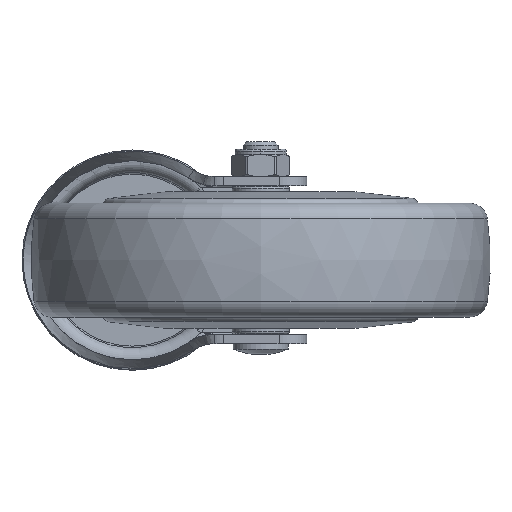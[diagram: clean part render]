
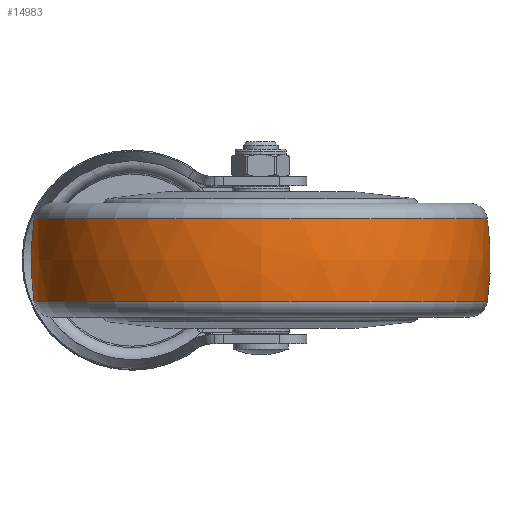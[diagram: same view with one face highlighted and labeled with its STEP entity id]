
A CAD part, front view. The second image highlights one B-rep face of the part: STEP entity #14983.
In plain terms, the highlighted free-form (B-spline) face has degree [3, 3] with [7, 4] control points.
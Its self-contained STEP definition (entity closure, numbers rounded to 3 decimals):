
#14434=CARTESIAN_POINT('',(11.2,0.,0.));
#14435=DIRECTION('',(-1.,0.,0.));
#14436=DIRECTION('',(0.,1.,0.));
#14437=AXIS2_PLACEMENT_3D('',#14434,#14435,#14436);
#14439=CARTESIAN_POINT('',(0.,-17.482,0.));
#14440=DIRECTION('',(0.,0.,1.));
#14441=DIRECTION('',(0.14,0.99,0.));
#14442=AXIS2_PLACEMENT_3D('',#14439,#14440,#14441);
#14449=CARTESIAN_POINT('',(0.,17.482,0.));
#14450=DIRECTION('',(0.,0.,-1.));
#14451=DIRECTION('',(0.14,-0.99,0.));
#14452=AXIS2_PLACEMENT_3D('',#14449,#14450,#14451);
#14661=CARTESIAN_POINT('',(-11.2,0.,0.));
#14662=DIRECTION('',(-1.,0.,0.));
#14663=DIRECTION('',(0.,1.,0.));
#14664=AXIS2_PLACEMENT_3D('',#14661,#14662,#14663);
#14848=CARTESIAN_POINT('',(11.2,61.73,0.));
#14849=CARTESIAN_POINT('',(-11.2,61.73,0.));
#14850=VERTEX_POINT('',#14848);
#14851=VERTEX_POINT('',#14849);
#14896=CARTESIAN_POINT('',(11.2,-61.73,
0.));
#14897=CARTESIAN_POINT('',(-11.2,-61.73,
0.));
#14898=VERTEX_POINT('',#14896);
#14899=VERTEX_POINT('',#14897);
#14944=CARTESIAN_POINT('',(11.645,61.544,3.872));
#14945=CARTESIAN_POINT('',(3.909,62.68,3.943));
#14946=CARTESIAN_POINT('',(-3.909,62.68,
3.943));
#14947=CARTESIAN_POINT('',(-11.645,61.544,
3.872));
#14948=CARTESIAN_POINT('',(11.645,63.927,
-34.002));
#14949=CARTESIAN_POINT('',(3.909,65.107,
-34.63));
#14950=CARTESIAN_POINT('',(-3.909,65.107,
-34.63));
#14951=CARTESIAN_POINT('',(-11.645,63.927,
-34.002));
#14952=CARTESIAN_POINT('',(11.645,37.949,
-61.666));
#14953=CARTESIAN_POINT('',(3.909,38.649,
-62.804));
#14954=CARTESIAN_POINT('',(-3.909,38.649,
-62.804));
#14955=CARTESIAN_POINT('',(-11.645,37.949,
-61.666));
#14956=CARTESIAN_POINT('',(11.645,0.,-61.666));
#14957=CARTESIAN_POINT('',(3.909,0.,-62.804));
#14958=CARTESIAN_POINT('',(-3.909,0.,-62.804));
#14959=CARTESIAN_POINT('',(-11.645,0.,
-61.666));
#14960=CARTESIAN_POINT('',(11.645,-37.949,
-61.666));
#14961=CARTESIAN_POINT('',(3.909,-38.649,
-62.804));
#14962=CARTESIAN_POINT('',(-3.909,-38.649,
-62.804));
#14963=CARTESIAN_POINT('',(-11.645,-37.949,
-61.666));
#14964=CARTESIAN_POINT('',(11.645,-63.927,
-34.002));
#14965=CARTESIAN_POINT('',(3.909,-65.107,
-34.63));
#14966=CARTESIAN_POINT('',(-3.909,-65.107,
-34.63));
#14967=CARTESIAN_POINT('',(-11.645,-63.927,
-34.002));
#14968=CARTESIAN_POINT('',(11.645,-61.544,
3.872));
#14969=CARTESIAN_POINT('',(3.909,-62.68,
3.943));
#14970=CARTESIAN_POINT('',(-3.909,-62.68,
3.943));
#14971=CARTESIAN_POINT('',(-11.645,-61.544,
3.872));
#14972=(BOUNDED_SURFACE()B_SPLINE_SURFACE(3,3,((#14944,#14945,#14946,#14947),(
#14948,#14949,#14950,#14951),(#14952,#14953,#14954,#14955),(#14956,#14957,
#14958,#14959),(#14960,#14961,#14962,#14963),(#14964,#14965,#14966,#14967),(
#14968,#14969,#14970,#14971)),.UNSPECIFIED.,.F.,.F.,.F.)B_SPLINE_SURFACE_WITH_KNOTS((4,3,4),(4,4),(0.,1.,2.),(0.,1.),.UNSPECIFIED.)GEOMETRIC_REPRESENTATION_ITEM()RATIONAL_B_SPLINE_SURFACE(((1.194,1.185,
1.185,1.194),(0.943,0.936,
0.936,0.943),(0.943,0.936,
0.936,0.943),(1.194,1.185,
1.185,1.194),(0.943,0.936,
0.936,0.943),(0.943,0.936,
0.936,0.943),(1.194,1.185,
1.185,1.194)))REPRESENTATION_ITEM('')SURFACE());
#14974=ORIENTED_EDGE('',*,*,#14973,.T.);
#14976=ORIENTED_EDGE('',*,*,#14975,.T.);
#14978=ORIENTED_EDGE('',*,*,#14977,.F.);
#14980=ORIENTED_EDGE('',*,*,#14979,.F.);
#14981=EDGE_LOOP('',(#14974,#14976,#14978,#14980));
#14982=FACE_OUTER_BOUND('',#14981,.F.);
#14438=CIRCLE('',#14437,61.73);
#14443=CIRCLE('',#14442,80.);
#14453=CIRCLE('',#14452,80.);
#14665=CIRCLE('',#14664,61.73);
#14973=EDGE_CURVE('',#14850,#14851,#14443,.T.);
#14975=EDGE_CURVE('',#14851,#14899,#14665,.T.);
#14977=EDGE_CURVE('',#14898,#14899,#14453,.T.);
#14979=EDGE_CURVE('',#14850,#14898,#14438,.T.);
#14983=ADVANCED_FACE('',(#14982),#14972,.T.);
